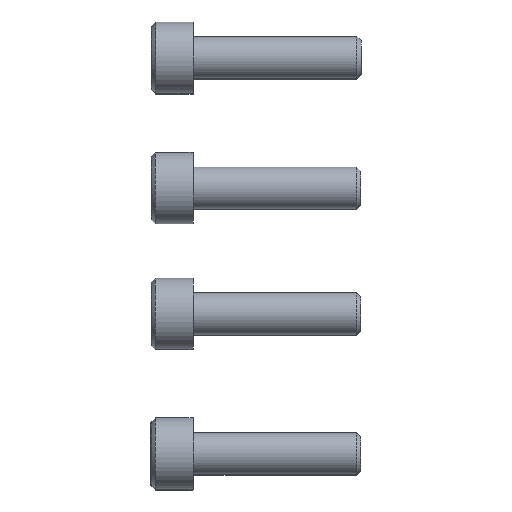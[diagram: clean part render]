
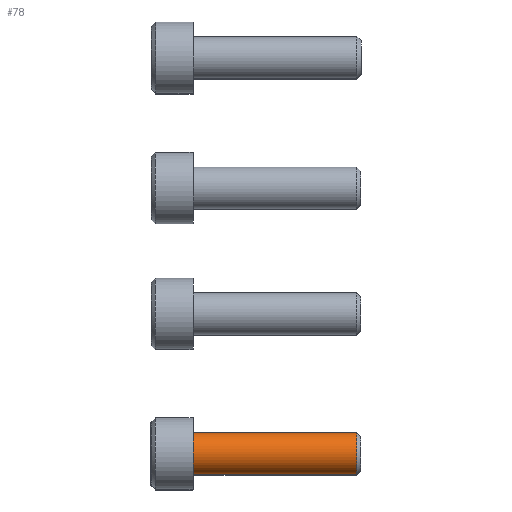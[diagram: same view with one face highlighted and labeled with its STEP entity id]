
A CAD part, top view. The second image highlights one B-rep face of the part: STEP entity #78.
In plain terms, the highlighted free-form (B-spline) face has degree [2, 1] with [9, 2] control points.
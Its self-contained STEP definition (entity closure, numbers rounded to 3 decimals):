
#78=ADVANCED_FACE('',(#103),#784,.T.);
#103=FACE_OUTER_BOUND('',#128,.T.);
#128=EDGE_LOOP('',(#219,#220,#221,#222));
#219=ORIENTED_EDGE('',*,*,#556,.F.);
#220=ORIENTED_EDGE('',*,*,#599,.T.);
#221=ORIENTED_EDGE('',*,*,#558,.F.);
#222=ORIENTED_EDGE('',*,*,#598,.F.);
#268=(
BOUNDED_CURVE()
B_SPLINE_CURVE(2,(#1429,#1430,#1431,#1432,#1433),.UNSPECIFIED.,.F.,.F.)
B_SPLINE_CURVE_WITH_KNOTS((3,2,3),(-7.854,-3.927,0.),
 .UNSPECIFIED.)
CURVE()
GEOMETRIC_REPRESENTATION_ITEM()
RATIONAL_B_SPLINE_CURVE((1.,0.707,1.,0.707,1.))
REPRESENTATION_ITEM('')
);
#269=(
BOUNDED_CURVE()
B_SPLINE_CURVE(2,(#1442,#1443,#1444,#1445,#1446),.UNSPECIFIED.,.F.,.F.)
B_SPLINE_CURVE_WITH_KNOTS((3,2,3),(-7.854,-3.927,0.),
 .UNSPECIFIED.)
CURVE()
GEOMETRIC_REPRESENTATION_ITEM()
RATIONAL_B_SPLINE_CURVE((1.,0.707,1.,0.707,1.))
REPRESENTATION_ITEM('')
);
#273=(
BOUNDED_CURVE()
B_SPLINE_CURVE(2,(#1468,#1469,#1470,#1471,#1472),.UNSPECIFIED.,.F.,.F.)
B_SPLINE_CURVE_WITH_KNOTS((3,2,3),(-7.854,-3.927,0.),
 .UNSPECIFIED.)
CURVE()
GEOMETRIC_REPRESENTATION_ITEM()
RATIONAL_B_SPLINE_CURVE((1.,0.707,1.,0.707,1.))
REPRESENTATION_ITEM('')
);
#287=PCURVE('',#779,#395);
#289=PCURVE('',#779,#397);
#360=PCURVE('',#783,#468);
#363=PCURVE('',#784,#471);
#364=PCURVE('',#784,#472);
#365=PCURVE('',#784,#473);
#366=PCURVE('',#784,#474);
#369=PCURVE('',#775,#477);
#395=DEFINITIONAL_REPRESENTATION('',(#616),#1535);
#397=DEFINITIONAL_REPRESENTATION('',(#619),#1535);
#468=DEFINITIONAL_REPRESENTATION('',(#708),#1535);
#471=DEFINITIONAL_REPRESENTATION('',(#711),#1535);
#472=DEFINITIONAL_REPRESENTATION('',(#712),#1535);
#473=DEFINITIONAL_REPRESENTATION('',(#713),#1535);
#474=DEFINITIONAL_REPRESENTATION('',(#714),#1535);
#477=DEFINITIONAL_REPRESENTATION('',(#273),#1535);
#502=SURFACE_CURVE('',#615,(#287,#363),.PCURVE_S1.);
#504=SURFACE_CURVE('',#618,(#289,#365),.PCURVE_S1.);
#544=SURFACE_CURVE('',#268,(#360,#366),.PCURVE_S1.);
#545=SURFACE_CURVE('',#269,(#364,#369),.PCURVE_S1.);
#556=EDGE_CURVE('',#735,#736,#502,.T.);
#558=EDGE_CURVE('',#737,#738,#504,.T.);
#598=EDGE_CURVE('',#736,#737,#544,.T.);
#599=EDGE_CURVE('',#735,#738,#545,.T.);
#615=B_SPLINE_CURVE_WITH_KNOTS('',1,(#1165,#1166),.UNSPECIFIED.,.F.,.F.,
(2,2),(-19.51,0.),.UNSPECIFIED.);
#616=B_SPLINE_CURVE_WITH_KNOTS('',1,(#1167,#1168),.UNSPECIFIED.,.F.,.F.,
(2,2),(-19.51,0.),.UNSPECIFIED.);
#618=B_SPLINE_CURVE_WITH_KNOTS('',1,(#1176,#1177),.UNSPECIFIED.,.F.,.F.,
(2,2),(-19.51,0.),.UNSPECIFIED.);
#619=B_SPLINE_CURVE_WITH_KNOTS('',1,(#1178,#1179),.UNSPECIFIED.,.F.,.F.,
(2,2),(-19.51,0.),.UNSPECIFIED.);
#708=B_SPLINE_CURVE_WITH_KNOTS('',1,(#1434,#1435),.UNSPECIFIED.,.F.,.F.,
(2,2),(-7.854,0.),.UNSPECIFIED.);
#711=B_SPLINE_CURVE_WITH_KNOTS('',1,(#1440,#1441),.UNSPECIFIED.,.F.,.F.,
(2,2),(-19.51,0.),.UNSPECIFIED.);
#712=B_SPLINE_CURVE_WITH_KNOTS('',1,(#1447,#1448),.UNSPECIFIED.,.F.,.F.,
(2,2),(-7.854,0.),.UNSPECIFIED.);
#713=B_SPLINE_CURVE_WITH_KNOTS('',1,(#1449,#1450),.UNSPECIFIED.,.F.,.F.,
(2,2),(-19.51,0.),.UNSPECIFIED.);
#714=B_SPLINE_CURVE_WITH_KNOTS('',1,(#1451,#1452),.UNSPECIFIED.,.F.,.F.,
(2,2),(-7.854,0.),.UNSPECIFIED.);
#735=VERTEX_POINT('',#1099);
#736=VERTEX_POINT('',#1100);
#737=VERTEX_POINT('',#1101);
#738=VERTEX_POINT('',#1102);
#775=PLANE('',#848);
#779=(
BOUNDED_SURFACE()
B_SPLINE_SURFACE(2,1,((#934,#935),(#936,#937),(#938,#939),(#940,#941),(#942,
#943),(#944,#945),(#946,#947),(#948,#949),(#950,#951)),.UNSPECIFIED.,.T.,
 .F.,.F.)
B_SPLINE_SURFACE_WITH_KNOTS((3,2,2,2,3),(2,2),(0.,1.571,3.142,
4.712,6.283),(0.,23.414),.UNSPECIFIED.)
GEOMETRIC_REPRESENTATION_ITEM()
RATIONAL_B_SPLINE_SURFACE(((1.,1.),(0.707,0.707),
(1.,1.),(0.707,0.707),(1.,1.),(0.707,
0.707),(1.,1.),(0.707,0.707),(1.,1.)))
REPRESENTATION_ITEM('')
SURFACE()
);
#783=(
BOUNDED_SURFACE()
B_SPLINE_SURFACE(2,1,((#1019,#1020),(#1021,#1022),(#1023,#1024),(#1025,#1026),
(#1027,#1028),(#1029,#1030),(#1031,#1032),(#1033,#1034),(#1035,#1036)),
 .UNSPECIFIED.,.T.,.F.,.F.)
B_SPLINE_SURFACE_WITH_KNOTS((3,2,2,2,3),(2,2),(0.,1.571,3.142,
4.712,6.283),(0.,3.891),.UNSPECIFIED.)
GEOMETRIC_REPRESENTATION_ITEM()
RATIONAL_B_SPLINE_SURFACE(((1.,1.),(0.707,0.707),
(1.,1.),(0.707,0.707),(1.,1.),(0.707,
0.707),(1.,1.),(0.707,0.707),(1.,1.)))
REPRESENTATION_ITEM('')
SURFACE()
);
#784=(
BOUNDED_SURFACE()
B_SPLINE_SURFACE(2,1,((#1037,#1038),(#1039,#1040),(#1041,#1042),(#1043,#1044),
(#1045,#1046),(#1047,#1048),(#1049,#1050),(#1051,#1052),(#1053,#1054)),
 .UNSPECIFIED.,.T.,.F.,.F.)
B_SPLINE_SURFACE_WITH_KNOTS((3,2,2,2,3),(2,2),(0.,1.571,3.142,
4.712,6.283),(0.,23.414),.UNSPECIFIED.)
GEOMETRIC_REPRESENTATION_ITEM()
RATIONAL_B_SPLINE_SURFACE(((1.,1.),(0.707,0.707),
(1.,1.),(0.707,0.707),(1.,1.),(0.707,
0.707),(1.,1.),(0.707,0.707),(1.,1.)))
REPRESENTATION_ITEM('')
SURFACE()
);
#848=AXIS2_PLACEMENT_3D('',#1055,#876,$);
#876=DIRECTION('',(1.,0.,0.));
#934=CARTESIAN_POINT('',(-1.952,0.,2.5));
#935=CARTESIAN_POINT('',(21.462,0.,2.5));
#936=CARTESIAN_POINT('',(-1.952,-2.5,2.5));
#937=CARTESIAN_POINT('',(21.462,-2.5,2.5));
#938=CARTESIAN_POINT('',(-1.952,-2.5,0.));
#939=CARTESIAN_POINT('',(21.462,-2.5,0.));
#940=CARTESIAN_POINT('',(-1.952,-2.5,-2.5));
#941=CARTESIAN_POINT('',(21.462,-2.5,-2.5));
#942=CARTESIAN_POINT('',(-1.952,0.,-2.5));
#943=CARTESIAN_POINT('',(21.462,0.,-2.5));
#944=CARTESIAN_POINT('',(-1.952,2.5,-2.5));
#945=CARTESIAN_POINT('',(21.462,2.5,-2.5));
#946=CARTESIAN_POINT('',(-1.952,2.5,0.));
#947=CARTESIAN_POINT('',(21.462,2.5,0.));
#948=CARTESIAN_POINT('',(-1.952,2.5,2.5));
#949=CARTESIAN_POINT('',(21.462,2.5,2.5));
#950=CARTESIAN_POINT('',(-1.952,0.,2.5));
#951=CARTESIAN_POINT('',(21.462,0.,2.5));
#1019=CARTESIAN_POINT('',(22.01,0.,0.));
#1020=CARTESIAN_POINT('',(19.258,0.,-2.751));
#1021=CARTESIAN_POINT('',(22.01,0.,0.));
#1022=CARTESIAN_POINT('',(19.258,-2.751,-2.751));
#1023=CARTESIAN_POINT('',(22.01,0.,0.));
#1024=CARTESIAN_POINT('',(19.258,-2.751,0.));
#1025=CARTESIAN_POINT('',(22.01,0.,0.));
#1026=CARTESIAN_POINT('',(19.258,-2.751,2.751));
#1027=CARTESIAN_POINT('',(22.01,0.,0.));
#1028=CARTESIAN_POINT('',(19.258,0.,2.751));
#1029=CARTESIAN_POINT('',(22.01,0.,0.));
#1030=CARTESIAN_POINT('',(19.258,2.751,2.751));
#1031=CARTESIAN_POINT('',(22.01,0.,0.));
#1032=CARTESIAN_POINT('',(19.258,2.751,0.));
#1033=CARTESIAN_POINT('',(22.01,0.,0.));
#1034=CARTESIAN_POINT('',(19.258,2.751,-2.751));
#1035=CARTESIAN_POINT('',(22.01,0.,0.));
#1036=CARTESIAN_POINT('',(19.258,0.,-2.751));
#1037=CARTESIAN_POINT('',(-1.952,0.,-2.5));
#1038=CARTESIAN_POINT('',(21.462,0.,-2.5));
#1039=CARTESIAN_POINT('',(-1.952,2.5,-2.5));
#1040=CARTESIAN_POINT('',(21.462,2.5,-2.5));
#1041=CARTESIAN_POINT('',(-1.952,2.5,0.));
#1042=CARTESIAN_POINT('',(21.462,2.5,0.));
#1043=CARTESIAN_POINT('',(-1.952,2.5,2.5));
#1044=CARTESIAN_POINT('',(21.462,2.5,2.5));
#1045=CARTESIAN_POINT('',(-1.952,0.,2.5));
#1046=CARTESIAN_POINT('',(21.462,0.,2.5));
#1047=CARTESIAN_POINT('',(-1.952,-2.5,2.5));
#1048=CARTESIAN_POINT('',(21.462,-2.5,2.5));
#1049=CARTESIAN_POINT('',(-1.952,-2.5,0.));
#1050=CARTESIAN_POINT('',(21.462,-2.5,0.));
#1051=CARTESIAN_POINT('',(-1.952,-2.5,-2.5));
#1052=CARTESIAN_POINT('',(21.462,-2.5,-2.5));
#1053=CARTESIAN_POINT('',(-1.952,0.,-2.5));
#1054=CARTESIAN_POINT('',(21.462,0.,-2.5));
#1055=CARTESIAN_POINT('',(0.,5.101,5.101));
#1099=CARTESIAN_POINT('',(0.,2.5,0.));
#1100=CARTESIAN_POINT('',(19.51,2.5,0.));
#1101=CARTESIAN_POINT('',(19.51,-2.5,0.));
#1102=CARTESIAN_POINT('',(0.,-2.5,0.));
#1165=CARTESIAN_POINT('',(0.,2.5,0.));
#1166=CARTESIAN_POINT('',(19.51,2.5,0.));
#1167=CARTESIAN_POINT('',(4.712,1.952));
#1168=CARTESIAN_POINT('',(4.712,21.462));
#1176=CARTESIAN_POINT('',(19.51,-2.5,0.));
#1177=CARTESIAN_POINT('',(0.,-2.5,0.));
#1178=CARTESIAN_POINT('',(1.571,21.462));
#1179=CARTESIAN_POINT('',(1.571,1.952));
#1429=CARTESIAN_POINT('',(19.51,2.5,0.));
#1430=CARTESIAN_POINT('',(19.51,2.5,2.5));
#1431=CARTESIAN_POINT('',(19.51,0.,2.5));
#1432=CARTESIAN_POINT('',(19.51,-2.5,2.5));
#1433=CARTESIAN_POINT('',(19.51,-2.5,0.));
#1434=CARTESIAN_POINT('',(4.712,3.536));
#1435=CARTESIAN_POINT('',(1.571,3.536));
#1440=CARTESIAN_POINT('',(1.571,1.952));
#1441=CARTESIAN_POINT('',(1.571,21.462));
#1442=CARTESIAN_POINT('',(0.,2.5,0.));
#1443=CARTESIAN_POINT('',(0.,2.5,2.5));
#1444=CARTESIAN_POINT('',(0.,0.,2.5));
#1445=CARTESIAN_POINT('',(0.,-2.5,2.5));
#1446=CARTESIAN_POINT('',(0.,-2.5,0.));
#1447=CARTESIAN_POINT('',(1.571,1.952));
#1448=CARTESIAN_POINT('',(4.712,1.952));
#1449=CARTESIAN_POINT('',(4.712,21.462));
#1450=CARTESIAN_POINT('',(4.712,1.952));
#1451=CARTESIAN_POINT('',(1.571,21.462));
#1452=CARTESIAN_POINT('',(4.712,21.462));
#1468=CARTESIAN_POINT('',(0.875,0.));
#1469=CARTESIAN_POINT('',(0.875,-2.5));
#1470=CARTESIAN_POINT('',(3.375,-2.5));
#1471=CARTESIAN_POINT('',(5.875,-2.5));
#1472=CARTESIAN_POINT('',(5.875,0.));
#1535=(
GEOMETRIC_REPRESENTATION_CONTEXT(2)
PARAMETRIC_REPRESENTATION_CONTEXT()
REPRESENTATION_CONTEXT('pspace','')
);
